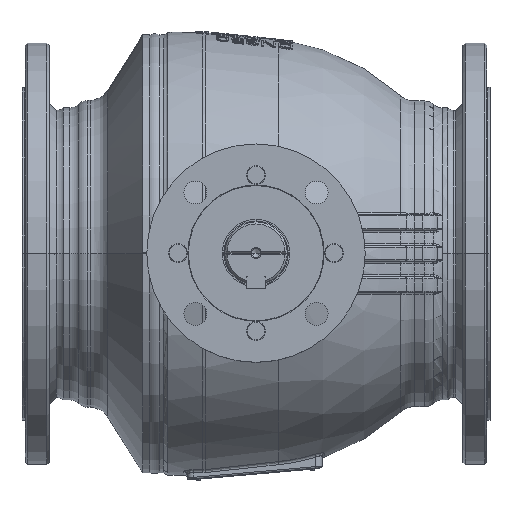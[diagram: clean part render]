
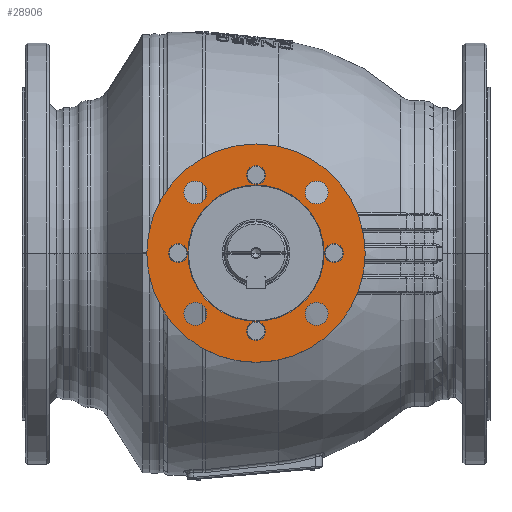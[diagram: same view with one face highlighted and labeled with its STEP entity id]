
A CAD part, top view. The second image highlights one B-rep face of the part: STEP entity #28906.
In plain terms, the highlighted planar face has unit normal (0, 0, 1).
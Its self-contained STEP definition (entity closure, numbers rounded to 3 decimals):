
#174=CARTESIAN_POINT('',(0.,0.,374.));
#175=DIRECTION('',(0.,0.,1.));
#176=DIRECTION('',(1.,0.,0.));
#177=AXIS2_PLACEMENT_3D('',#174,#175,#176);
#179=CARTESIAN_POINT('',(0.,0.,374.));
#180=DIRECTION('',(0.,0.,-1.));
#181=DIRECTION('',(1.,0.,0.));
#182=AXIS2_PLACEMENT_3D('',#179,#180,#181);
#184=CARTESIAN_POINT('',(58.336,58.336,374.));
#185=DIRECTION('',(0.,0.,-1.));
#186=DIRECTION('',(-1.,0.,0.));
#187=AXIS2_PLACEMENT_3D('',#184,#185,#186);
#189=CARTESIAN_POINT('',(58.336,58.336,374.));
#190=DIRECTION('',(0.,0.,-1.));
#191=DIRECTION('',(1.,0.,0.));
#192=AXIS2_PLACEMENT_3D('',#189,#190,#191);
#194=CARTESIAN_POINT('',(-58.336,58.336,374.));
#195=DIRECTION('',(0.,0.,-1.));
#196=DIRECTION('',(-1.,0.,0.));
#197=AXIS2_PLACEMENT_3D('',#194,#195,#196);
#199=CARTESIAN_POINT('',(-58.336,58.336,374.));
#200=DIRECTION('',(0.,0.,-1.));
#201=DIRECTION('',(1.,0.,0.));
#202=AXIS2_PLACEMENT_3D('',#199,#200,#201);
#204=CARTESIAN_POINT('',(-58.336,-58.336,374.));
#205=DIRECTION('',(0.,0.,-1.));
#206=DIRECTION('',(-1.,0.,0.));
#207=AXIS2_PLACEMENT_3D('',#204,#205,#206);
#209=CARTESIAN_POINT('',(-58.336,-58.336,374.));
#210=DIRECTION('',(0.,0.,-1.));
#211=DIRECTION('',(1.,0.,0.));
#212=AXIS2_PLACEMENT_3D('',#209,#210,#211);
#214=CARTESIAN_POINT('',(58.336,-58.336,374.));
#215=DIRECTION('',(0.,0.,-1.));
#216=DIRECTION('',(-1.,0.,0.));
#217=AXIS2_PLACEMENT_3D('',#214,#215,#216);
#219=CARTESIAN_POINT('',(58.336,-58.336,374.));
#220=DIRECTION('',(0.,0.,-1.));
#221=DIRECTION('',(1.,0.,0.));
#222=AXIS2_PLACEMENT_3D('',#219,#220,#221);
#224=CARTESIAN_POINT('',(-75.,0.,374.));
#225=DIRECTION('',(0.,0.,1.));
#226=DIRECTION('',(-1.,0.,0.));
#227=AXIS2_PLACEMENT_3D('',#224,#225,#226);
#229=CARTESIAN_POINT('',(-75.,0.,374.));
#230=DIRECTION('',(0.,0.,1.));
#231=DIRECTION('',(1.,0.,0.));
#232=AXIS2_PLACEMENT_3D('',#229,#230,#231);
#234=CARTESIAN_POINT('',(0.,75.,374.));
#235=DIRECTION('',(0.,0.,-1.));
#236=DIRECTION('',(0.,-1.,0.));
#237=AXIS2_PLACEMENT_3D('',#234,#235,#236);
#239=CARTESIAN_POINT('',(0.,75.,374.));
#240=DIRECTION('',(0.,0.,-1.));
#241=DIRECTION('',(0.,1.,0.));
#242=AXIS2_PLACEMENT_3D('',#239,#240,#241);
#244=CARTESIAN_POINT('',(75.,0.,374.));
#245=DIRECTION('',(0.,0.,1.));
#246=DIRECTION('',(1.,0.,0.));
#247=AXIS2_PLACEMENT_3D('',#244,#245,#246);
#249=CARTESIAN_POINT('',(75.,0.,374.));
#250=DIRECTION('',(0.,0.,1.));
#251=DIRECTION('',(-1.,0.,0.));
#252=AXIS2_PLACEMENT_3D('',#249,#250,#251);
#254=CARTESIAN_POINT('',(0.,-75.,374.));
#255=DIRECTION('',(0.,0.,-1.));
#256=DIRECTION('',(0.,1.,0.));
#257=AXIS2_PLACEMENT_3D('',#254,#255,#256);
#259=CARTESIAN_POINT('',(0.,-75.,374.));
#260=DIRECTION('',(0.,0.,-1.));
#261=DIRECTION('',(0.,-1.,0.));
#262=AXIS2_PLACEMENT_3D('',#259,#260,#261);
#264=CARTESIAN_POINT('',(0.,0.,374.));
#265=DIRECTION('',(0.,0.,1.));
#266=DIRECTION('',(-1.,0.,0.));
#267=AXIS2_PLACEMENT_3D('',#264,#265,#266);
#269=CARTESIAN_POINT('',(0.,0.,374.));
#270=DIRECTION('',(0.,0.,1.));
#271=DIRECTION('',(1.,0.,0.));
#272=AXIS2_PLACEMENT_3D('',#269,#270,#271);
#27479=CARTESIAN_POINT('',(105.,0.,374.));
#27481=VERTEX_POINT('',#27479);
#27487=CARTESIAN_POINT('',(-105.,0.,374.));
#27489=VERTEX_POINT('',#27487);
#27502=CARTESIAN_POINT('',(-84.,0.,374.));
#27503=CARTESIAN_POINT('',(-66.,0.,374.));
#27504=VERTEX_POINT('',#27502);
#27505=VERTEX_POINT('',#27503);
#27506=CARTESIAN_POINT('',(0.,66.,374.));
#27507=CARTESIAN_POINT('',(0.,84.,374.));
#27508=VERTEX_POINT('',#27506);
#27509=VERTEX_POINT('',#27507);
#27510=CARTESIAN_POINT('',(0.,-66.,374.));
#27511=CARTESIAN_POINT('',(0.,-84.,374.));
#27512=VERTEX_POINT('',#27510);
#27513=VERTEX_POINT('',#27511);
#27514=CARTESIAN_POINT('',(84.,0.,374.));
#27515=CARTESIAN_POINT('',(66.,0.,374.));
#27516=VERTEX_POINT('',#27514);
#27517=VERTEX_POINT('',#27515);
#27522=CARTESIAN_POINT('',(47.336,58.336,374.));
#27523=CARTESIAN_POINT('',(69.336,58.336,374.));
#27524=VERTEX_POINT('',#27522);
#27525=VERTEX_POINT('',#27523);
#27530=CARTESIAN_POINT('',(-69.336,58.336,374.));
#27531=CARTESIAN_POINT('',(-47.336,58.336,374.));
#27532=VERTEX_POINT('',#27530);
#27533=VERTEX_POINT('',#27531);
#27538=CARTESIAN_POINT('',(-69.336,-58.336,374.));
#27539=CARTESIAN_POINT('',(-47.336,-58.336,374.));
#27540=VERTEX_POINT('',#27538);
#27541=VERTEX_POINT('',#27539);
#27546=CARTESIAN_POINT('',(47.336,-58.336,374.));
#27547=CARTESIAN_POINT('',(69.336,-58.336,374.));
#27548=VERTEX_POINT('',#27546);
#27549=VERTEX_POINT('',#27547);
#27554=CARTESIAN_POINT('',(-65.5,0.,374.));
#27555=CARTESIAN_POINT('',(65.5,0.,374.));
#27556=VERTEX_POINT('',#27554);
#27557=VERTEX_POINT('',#27555);
#28843=CARTESIAN_POINT('',(0.,0.,374.));
#28844=DIRECTION('',(0.,0.,-1.));
#28845=DIRECTION('',(-1.,0.,0.));
#28846=AXIS2_PLACEMENT_3D('',#28843,#28844,#28845);
#28847=PLANE('',#28846);
#28848=ORIENTED_EDGE('',*,*,#28836,.F.);
#28849=ORIENTED_EDGE('',*,*,#28825,.T.);
#28850=EDGE_LOOP('',(#28848,#28849));
#28851=FACE_OUTER_BOUND('',#28850,.F.);
#28853=ORIENTED_EDGE('',*,*,#28852,.F.);
#28855=ORIENTED_EDGE('',*,*,#28854,.F.);
#28856=EDGE_LOOP('',(#28853,#28855));
#28857=FACE_BOUND('',#28856,.F.);
#28859=ORIENTED_EDGE('',*,*,#28858,.F.);
#28861=ORIENTED_EDGE('',*,*,#28860,.F.);
#28862=EDGE_LOOP('',(#28859,#28861));
#28863=FACE_BOUND('',#28862,.F.);
#28865=ORIENTED_EDGE('',*,*,#28864,.F.);
#28867=ORIENTED_EDGE('',*,*,#28866,.F.);
#28868=EDGE_LOOP('',(#28865,#28867));
#28869=FACE_BOUND('',#28868,.F.);
#28871=ORIENTED_EDGE('',*,*,#28870,.F.);
#28873=ORIENTED_EDGE('',*,*,#28872,.F.);
#28874=EDGE_LOOP('',(#28871,#28873));
#28875=FACE_BOUND('',#28874,.F.);
#28877=ORIENTED_EDGE('',*,*,#28876,.T.);
#28879=ORIENTED_EDGE('',*,*,#28878,.T.);
#28880=EDGE_LOOP('',(#28877,#28879));
#28881=FACE_BOUND('',#28880,.F.);
#28883=ORIENTED_EDGE('',*,*,#28882,.F.);
#28885=ORIENTED_EDGE('',*,*,#28884,.F.);
#28886=EDGE_LOOP('',(#28883,#28885));
#28887=FACE_BOUND('',#28886,.F.);
#28889=ORIENTED_EDGE('',*,*,#28888,.T.);
#28891=ORIENTED_EDGE('',*,*,#28890,.T.);
#28892=EDGE_LOOP('',(#28889,#28891));
#28893=FACE_BOUND('',#28892,.F.);
#28895=ORIENTED_EDGE('',*,*,#28894,.F.);
#28897=ORIENTED_EDGE('',*,*,#28896,.F.);
#28898=EDGE_LOOP('',(#28895,#28897));
#28899=FACE_BOUND('',#28898,.F.);
#28901=ORIENTED_EDGE('',*,*,#28900,.T.);
#28903=ORIENTED_EDGE('',*,*,#28902,.T.);
#28904=EDGE_LOOP('',(#28901,#28903));
#28905=FACE_BOUND('',#28904,.F.);
#28906=ADVANCED_FACE('',(#28851,#28857,#28863,#28869,#28875,#28881,#28887,
#28893,#28899,#28905),#28847,.F.);
#178=CIRCLE('',#177,105.);
#183=CIRCLE('',#182,105.);
#188=CIRCLE('',#187,11.);
#193=CIRCLE('',#192,11.);
#198=CIRCLE('',#197,11.);
#203=CIRCLE('',#202,11.);
#208=CIRCLE('',#207,11.);
#213=CIRCLE('',#212,11.);
#218=CIRCLE('',#217,11.);
#223=CIRCLE('',#222,11.);
#228=CIRCLE('',#227,9.);
#233=CIRCLE('',#232,9.);
#238=CIRCLE('',#237,9.);
#243=CIRCLE('',#242,9.);
#248=CIRCLE('',#247,9.);
#253=CIRCLE('',#252,9.);
#258=CIRCLE('',#257,9.);
#263=CIRCLE('',#262,9.);
#268=CIRCLE('',#267,65.5);
#273=CIRCLE('',#272,65.5);
#28825=EDGE_CURVE('',#27481,#27489,#183,.T.);
#28836=EDGE_CURVE('',#27481,#27489,#178,.T.);
#28852=EDGE_CURVE('',#27524,#27525,#188,.T.);
#28854=EDGE_CURVE('',#27525,#27524,#193,.T.);
#28858=EDGE_CURVE('',#27532,#27533,#198,.T.);
#28860=EDGE_CURVE('',#27533,#27532,#203,.T.);
#28864=EDGE_CURVE('',#27540,#27541,#208,.T.);
#28866=EDGE_CURVE('',#27541,#27540,#213,.T.);
#28870=EDGE_CURVE('',#27548,#27549,#218,.T.);
#28872=EDGE_CURVE('',#27549,#27548,#223,.T.);
#28876=EDGE_CURVE('',#27504,#27505,#228,.T.);
#28878=EDGE_CURVE('',#27505,#27504,#233,.T.);
#28882=EDGE_CURVE('',#27508,#27509,#238,.T.);
#28884=EDGE_CURVE('',#27509,#27508,#243,.T.);
#28888=EDGE_CURVE('',#27516,#27517,#248,.T.);
#28890=EDGE_CURVE('',#27517,#27516,#253,.T.);
#28894=EDGE_CURVE('',#27512,#27513,#258,.T.);
#28896=EDGE_CURVE('',#27513,#27512,#263,.T.);
#28900=EDGE_CURVE('',#27556,#27557,#268,.T.);
#28902=EDGE_CURVE('',#27557,#27556,#273,.T.);
